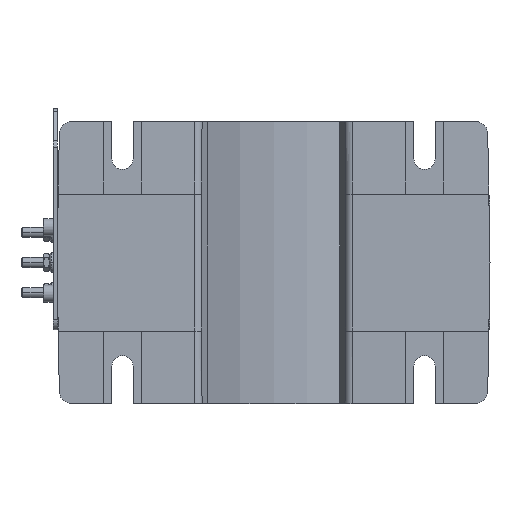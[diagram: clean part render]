
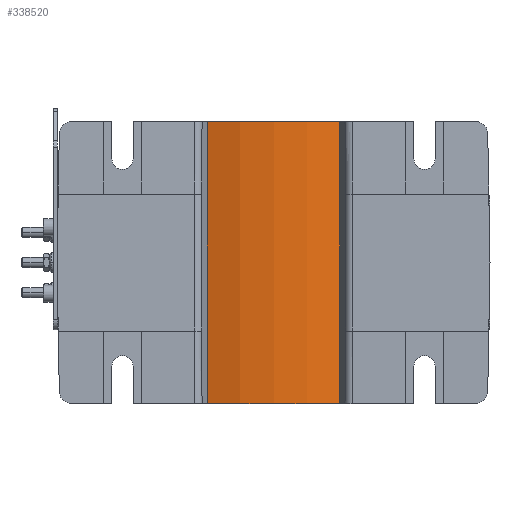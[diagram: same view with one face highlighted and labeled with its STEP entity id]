
A CAD part, front view. The second image highlights one B-rep face of the part: STEP entity #338520.
In plain terms, the highlighted cylindrical face has radius 96.5 mm (diameter 193 mm), a partial arc.
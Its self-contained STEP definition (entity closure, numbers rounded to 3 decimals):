
#313940=CARTESIAN_POINT('',(-43.468,214.62,
5.894));
#313950=VERTEX_POINT('',#313940);
#313980=CARTESIAN_POINT('',(-43.468,214.62,
-104.106));
#313990=DIRECTION('',(0.,0.,1.));
#314000=VECTOR('',#313990,1.);
#314010=LINE('',#313980,#314000);
#314020=CARTESIAN_POINT('',(-43.468,214.62,
-134.106));
#314030=VERTEX_POINT('',#314020);
#314040=EDGE_CURVE('',#314030,#313950,#314010,.T.);
#326760=CARTESIAN_POINT('',(22.532,214.62,
5.894));
#326770=VERTEX_POINT('',#326760);
#326800=CARTESIAN_POINT('',(-10.468,305.302,5.894)
);
#326810=DIRECTION('',(0.,0.,-1.));
#326820=DIRECTION('',(-1.,0.,0.));
#326830=AXIS2_PLACEMENT_3D('',#326800,#326810,#326820);
#326840=CIRCLE('',#326830,96.5);
#326850=EDGE_CURVE('',#326770,#313950,#326840,.T.);
#327460=CARTESIAN_POINT('',(22.532,214.62,
-134.106));
#327470=VERTEX_POINT('',#327460);
#327500=CARTESIAN_POINT('',(22.532,214.62,
-104.106));
#327510=DIRECTION('',(0.,0.,1.));
#327520=VECTOR('',#327510,1.);
#327530=LINE('',#327500,#327520);
#327540=EDGE_CURVE('',#327470,#326770,#327530,.T.);
#329580=CARTESIAN_POINT('',(-10.468,305.302,
-134.106));
#329590=DIRECTION('',(0.,0.,1.));
#329600=DIRECTION('',(1.,0.,0.));
#329610=AXIS2_PLACEMENT_3D('',#329580,#329590,#329600);
#329620=CIRCLE('',#329610,96.5);
#329630=EDGE_CURVE('',#314030,#327470,#329620,.T.);
#338410=CARTESIAN_POINT('',(-10.468,305.302,
-104.106));
#338420=DIRECTION('',(0.,0.,1.));
#338430=DIRECTION('',(1.,0.,0.));
#338440=AXIS2_PLACEMENT_3D('',#338410,#338420,#338430);
#338450=CYLINDRICAL_SURFACE('',#338440,96.5);
#338460=ORIENTED_EDGE('',*,*,#329630,.T.);
#338470=ORIENTED_EDGE('',*,*,#314040,.F.);
#338480=ORIENTED_EDGE('',*,*,#326850,.T.);
#338490=ORIENTED_EDGE('',*,*,#327540,.T.);
#338500=EDGE_LOOP('',(#338490,#338480,#338470,#338460));
#338510=FACE_OUTER_BOUND('',#338500,.T.);
#338520=ADVANCED_FACE('',(#338510),#338450,.T.);
